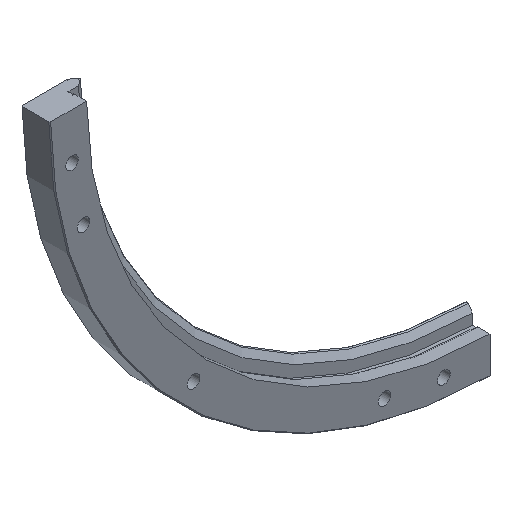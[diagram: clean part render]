
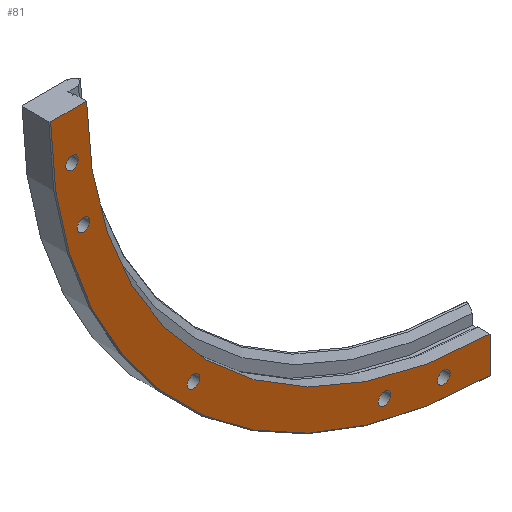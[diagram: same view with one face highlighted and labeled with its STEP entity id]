
A CAD part, isometric view. The second image highlights one B-rep face of the part: STEP entity #81.
In plain terms, the highlighted planar face has unit normal (0, -1, 0).
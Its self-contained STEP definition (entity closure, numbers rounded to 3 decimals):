
#81 = ADVANCED_FACE( '', ( #122, #123, #124, #125, #126, #127 ), #128, .T. );
#122 = FACE_BOUND( '', #205, .T. );
#123 = FACE_BOUND( '', #206, .T. );
#124 = FACE_BOUND( '', #207, .T. );
#125 = FACE_BOUND( '', #208, .T. );
#126 = FACE_BOUND( '', #209, .T. );
#127 = FACE_OUTER_BOUND( '', #210, .T. );
#128 = PLANE( '', #211 );
#205 = EDGE_LOOP( '', ( #326 ) );
#206 = EDGE_LOOP( '', ( #327 ) );
#207 = EDGE_LOOP( '', ( #328 ) );
#208 = EDGE_LOOP( '', ( #329 ) );
#209 = EDGE_LOOP( '', ( #330 ) );
#210 = EDGE_LOOP( '', ( #331, #332, #333, #334 ) );
#211 = AXIS2_PLACEMENT_3D( '', #335, #336, #337 );
#326 = ORIENTED_EDGE( '', *, *, #498, .F. );
#327 = ORIENTED_EDGE( '', *, *, #499, .F. );
#328 = ORIENTED_EDGE( '', *, *, #500, .F. );
#329 = ORIENTED_EDGE( '', *, *, #501, .F. );
#330 = ORIENTED_EDGE( '', *, *, #502, .F. );
#331 = ORIENTED_EDGE( '', *, *, #503, .F. );
#332 = ORIENTED_EDGE( '', *, *, #504, .T. );
#333 = ORIENTED_EDGE( '', *, *, #482, .T. );
#334 = ORIENTED_EDGE( '', *, *, #476, .T. );
#335 = CARTESIAN_POINT( '', ( -221.25, 0., 0. ) );
#336 = DIRECTION( '', ( 0., -1., 0. ) );
#337 = DIRECTION( '', ( 0., 0., -1. ) );
#476 = EDGE_CURVE( '', #539, #537, #540, .T. );
#482 = EDGE_CURVE( '', #550, #539, #551, .T. );
#498 = EDGE_CURVE( '', #577, #577, #578, .T. );
#499 = EDGE_CURVE( '', #579, #579, #580, .T. );
#500 = EDGE_CURVE( '', #581, #581, #582, .T. );
#501 = EDGE_CURVE( '', #583, #583, #584, .T. );
#502 = EDGE_CURVE( '', #585, #585, #586, .T. );
#503 = EDGE_CURVE( '', #587, #537, #588, .T. );
#504 = EDGE_CURVE( '', #587, #550, #589, .T. );
#537 = VERTEX_POINT( '', #652 );
#539 = VERTEX_POINT( '', #655 );
#540 = LINE( '', #656, #657 );
#550 = VERTEX_POINT( '', #678 );
#551 = CIRCLE( '', #679, 240.75 );
#577 = VERTEX_POINT( '', #716 );
#578 = CIRCLE( '', #717, 3.4 );
#579 = VERTEX_POINT( '', #718 );
#580 = CIRCLE( '', #719, 3.4 );
#581 = VERTEX_POINT( '', #720 );
#582 = CIRCLE( '', #721, 3.4 );
#583 = VERTEX_POINT( '', #722 );
#584 = CIRCLE( '', #723, 3.4 );
#585 = VERTEX_POINT( '', #724 );
#586 = CIRCLE( '', #725, 3.4 );
#587 = VERTEX_POINT( '', #726 );
#588 = CIRCLE( '', #727, 221.25 );
#589 = LINE( '', #728, #729 );
#652 = CARTESIAN_POINT( '', ( -2.5, 0., -221.236 ) );
#655 = CARTESIAN_POINT( '', ( -2.5, 0., -240.737 ) );
#656 = CARTESIAN_POINT( '', ( -2.5, 0., -251.25 ) );
#657 = VECTOR( '', #786, 1000. );
#678 = CARTESIAN_POINT( '', ( -240.737, 0., -2.5 ) );
#679 = AXIS2_PLACEMENT_3D( '', #789, #790, #791 );
#716 = CARTESIAN_POINT( '', ( -163.165, 0., -166.565 ) );
#717 = AXIS2_PLACEMENT_3D( '', #824, #825, #826 );
#718 = CARTESIAN_POINT( '', ( -222.887, 0., -63.122 ) );
#719 = AXIS2_PLACEMENT_3D( '', #827, #828, #829 );
#720 = CARTESIAN_POINT( '', ( -229.105, 0., -30.902 ) );
#721 = AXIS2_PLACEMENT_3D( '', #830, #831, #832 );
#722 = CARTESIAN_POINT( '', ( -59.722, 0., -226.287 ) );
#723 = AXIS2_PLACEMENT_3D( '', #833, #834, #835 );
#724 = CARTESIAN_POINT( '', ( -27.502, 0., -232.505 ) );
#725 = AXIS2_PLACEMENT_3D( '', #836, #837, #838 );
#726 = CARTESIAN_POINT( '', ( -221.236, 0., -2.5 ) );
#727 = AXIS2_PLACEMENT_3D( '', #839, #840, #841 );
#728 = CARTESIAN_POINT( '', ( -2.5, 0., -2.5 ) );
#729 = VECTOR( '', #842, 1000. );
#786 = DIRECTION( '', ( 0., 0., 1. ) );
#789 = CARTESIAN_POINT( '', ( 0., 0., 0. ) );
#790 = DIRECTION( '', ( 0., -1., 0. ) );
#791 = DIRECTION( '', ( 0., 0., -1. ) );
#824 = CARTESIAN_POINT( '', ( -163.165, 0., -163.165 ) );
#825 = DIRECTION( '', ( 0., -1., 0. ) );
#826 = DIRECTION( '', ( 0., 0., -1. ) );
#827 = CARTESIAN_POINT( '', ( -222.887, 0., -59.722 ) );
#828 = DIRECTION( '', ( 0., -1., 0. ) );
#829 = DIRECTION( '', ( 0., 0., -1. ) );
#830 = CARTESIAN_POINT( '', ( -229.105, 0., -27.502 ) );
#831 = DIRECTION( '', ( 0., -1., 0. ) );
#832 = DIRECTION( '', ( 0., 0., -1. ) );
#833 = CARTESIAN_POINT( '', ( -59.722, 0., -222.887 ) );
#834 = DIRECTION( '', ( 0., -1., 0. ) );
#835 = DIRECTION( '', ( 0., 0., -1. ) );
#836 = CARTESIAN_POINT( '', ( -27.502, 0., -229.105 ) );
#837 = DIRECTION( '', ( 0., -1., 0. ) );
#838 = DIRECTION( '', ( 0., 0., -1. ) );
#839 = CARTESIAN_POINT( '', ( 0., 0., 0. ) );
#840 = DIRECTION( '', ( 0., -1., 0. ) );
#841 = DIRECTION( '', ( 0., 0., -1. ) );
#842 = DIRECTION( '', ( -1., 0., 0. ) );
